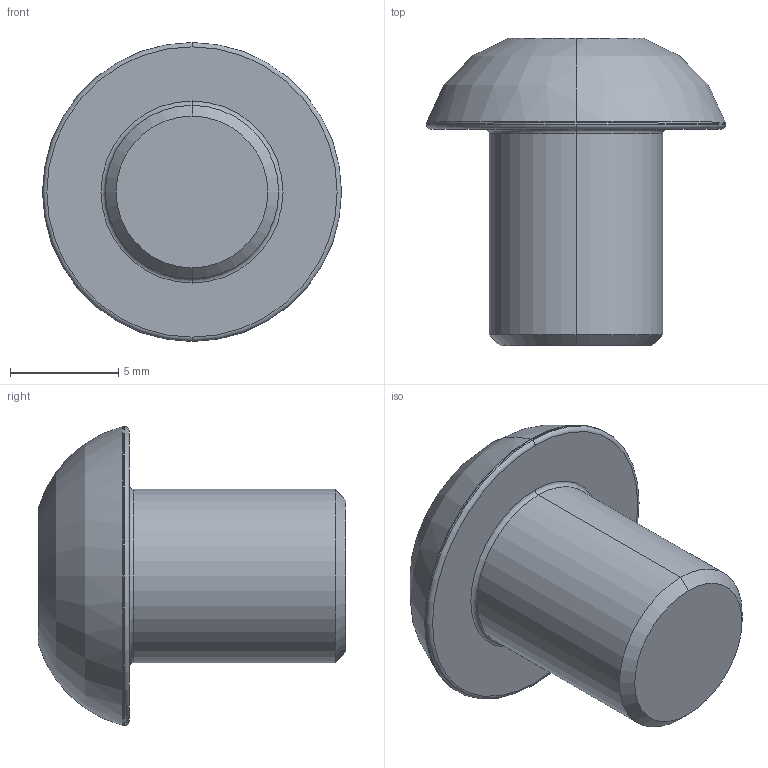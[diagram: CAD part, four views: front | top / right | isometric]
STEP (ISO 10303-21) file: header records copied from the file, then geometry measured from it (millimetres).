
FILE_DESCRIPTION (( 'STEP AP203' ), '1' );
FILE_NAME ('LGDD-304-M8x10.STEP', '2026-08-08T04:19:12', ( '' ), ( '' ), 'SwSTEP 2.0', 'SolidWorks 2020', '' );
FILE_SCHEMA (( 'CONFIG_CONTROL_DESIGN' ));
Length unit declared in the file: millimetre
Products named in the file (1): LGDD-304-M8x10
Bounding box: 13.8 x 14.2 x 13.8 mm (x, y, z)
Volume: 876.3 mm3; surface area: 681.3 mm2
Topology: 1 solids, 1 shells, 31 faces, 59 edges, 32 vertices
Faces by surface type: plane 10, cone 9, torus 8, cylinder 4
Entity records: 860 total; most frequent: CARTESIAN_POINT 150, DIRECTION 149, ORIENTED_EDGE 118, AXIS2_PLACEMENT_3D 65, EDGE_CURVE 59, CIRCLE 33, EDGE_LOOP 33, VERTEX_POINT 32
